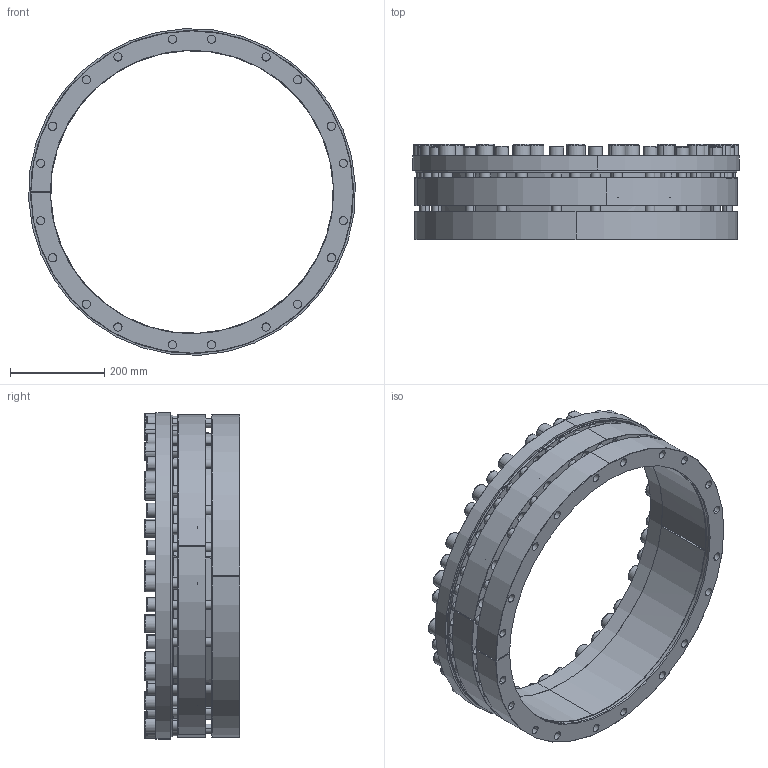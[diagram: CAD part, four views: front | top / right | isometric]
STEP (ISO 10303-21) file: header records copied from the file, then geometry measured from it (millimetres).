
FILE_DESCRIPTION (( 'STEP AP214' ), '1' );
FILE_NAME ('CONEX-P-600x685-P-024.step', '2015-11-30T21:15:41', ( '' ), ( '' ), 'SwSTEP 2.0', 'SolidWorks 2013', '' );
FILE_SCHEMA (( 'AUTOMOTIVE_DESIGN' ));
Length unit declared in the file: millimetre
Products named in the file (1): CONEX-P-600x685-P-024
Bounding box: 693.34 x 202 x 693.34 mm (x, y, z)
Volume: 14304182.7 mm3; surface area: 2374540.9 mm2
Topology: 43 solids, 43 shells, 1384 faces, 3183 edges, 1887 vertices
Faces by surface type: plane 622, cylinder 401, cone 199, torus 162
Entity records: 54542 total; most frequent: DIRECTION 7336, CARTESIAN_POINT 6503, ORIENTED_EDGE 6206, EDGE_CURVE 3103, AXIS2_PLACEMENT_3D 2880, VERTEX_POINT 1887, EDGE_LOOP 1686, VECTOR 1576
